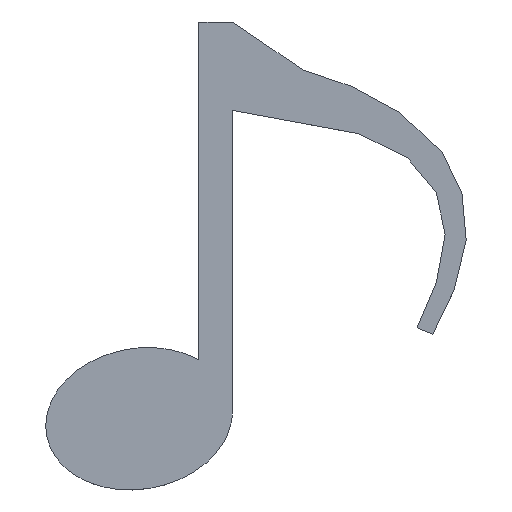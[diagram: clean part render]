
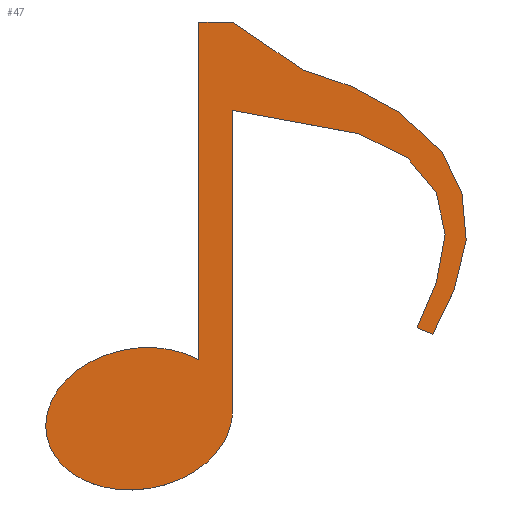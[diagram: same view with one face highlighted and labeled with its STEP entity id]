
A CAD part, top view. The second image highlights one B-rep face of the part: STEP entity #47.
In plain terms, the highlighted planar face has unit normal (0, 0, 1).
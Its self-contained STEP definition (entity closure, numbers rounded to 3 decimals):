
#47=ADVANCED_FACE('',(#70),#71,.T.);
#70=FACE_OUTER_BOUND('',#113,.T.);
#71=PLANE('',#114);
#113=EDGE_LOOP('',(#172,#173,#174,#175,#176,#177,#178,#179,#180,#181,#182,#183,#184,#185,#186,#187,#188,#189,#190));
#114=AXIS2_PLACEMENT_3D('',#191,#192,#193);
#172=ORIENTED_EDGE('',*,*,#346,.F.);
#173=ORIENTED_EDGE('',*,*,#347,.T.);
#174=ORIENTED_EDGE('',*,*,#344,.T.);
#175=ORIENTED_EDGE('',*,*,#348,.T.);
#176=ORIENTED_EDGE('',*,*,#349,.T.);
#177=ORIENTED_EDGE('',*,*,#350,.T.);
#178=ORIENTED_EDGE('',*,*,#351,.T.);
#179=ORIENTED_EDGE('',*,*,#352,.T.);
#180=ORIENTED_EDGE('',*,*,#353,.T.);
#181=ORIENTED_EDGE('',*,*,#354,.T.);
#182=ORIENTED_EDGE('',*,*,#355,.T.);
#183=ORIENTED_EDGE('',*,*,#356,.T.);
#184=ORIENTED_EDGE('',*,*,#357,.T.);
#185=ORIENTED_EDGE('',*,*,#358,.T.);
#186=ORIENTED_EDGE('',*,*,#359,.T.);
#187=ORIENTED_EDGE('',*,*,#360,.T.);
#188=ORIENTED_EDGE('',*,*,#361,.T.);
#189=ORIENTED_EDGE('',*,*,#362,.T.);
#190=ORIENTED_EDGE('',*,*,#363,.T.);
#191=CARTESIAN_POINT('',(0.0,0.0,3.0));
#192=DIRECTION('',(0.0,-0.0,1.0));
#193=DIRECTION('',(1.0,0.0,-0.0));
#344=EDGE_CURVE('',#404,#402,#405,.T.);
#346=EDGE_CURVE('',#407,#408,#409,.T.);
#347=EDGE_CURVE('',#407,#404,#410,.T.);
#348=EDGE_CURVE('',#402,#411,#412,.T.);
#349=EDGE_CURVE('',#411,#413,#414,.T.);
#350=EDGE_CURVE('',#413,#415,#416,.T.);
#351=EDGE_CURVE('',#415,#417,#418,.T.);
#352=EDGE_CURVE('',#417,#419,#420,.T.);
#353=EDGE_CURVE('',#419,#421,#422,.T.);
#354=EDGE_CURVE('',#421,#423,#424,.T.);
#355=EDGE_CURVE('',#423,#425,#426,.T.);
#356=EDGE_CURVE('',#425,#427,#428,.T.);
#357=EDGE_CURVE('',#427,#429,#430,.T.);
#358=EDGE_CURVE('',#429,#431,#432,.T.);
#359=EDGE_CURVE('',#431,#433,#434,.T.);
#360=EDGE_CURVE('',#433,#435,#436,.T.);
#361=EDGE_CURVE('',#435,#437,#438,.T.);
#362=EDGE_CURVE('',#437,#439,#440,.T.);
#363=EDGE_CURVE('',#439,#408,#441,.T.);
#402=VERTEX_POINT('',#497);
#404=VERTEX_POINT('',#500);
#405=ELLIPSE('',#501,28.0,21.0);
#407=VERTEX_POINT('',#504);
#408=VERTEX_POINT('',#505);
#409=LINE('',#506,#507);
#410=LINE('',#508,#509);
#411=VERTEX_POINT('',#510);
#412=LINE('',#511,#512);
#413=VERTEX_POINT('',#513);
#414=LINE('',#514,#515);
#415=VERTEX_POINT('',#516);
#416=LINE('',#517,#518);
#417=VERTEX_POINT('',#519);
#418=LINE('',#520,#521);
#419=VERTEX_POINT('',#522);
#420=LINE('',#523,#524);
#421=VERTEX_POINT('',#525);
#422=LINE('',#526,#527);
#423=VERTEX_POINT('',#528);
#424=LINE('',#529,#530);
#425=VERTEX_POINT('',#531);
#426=LINE('',#532,#533);
#427=VERTEX_POINT('',#534);
#428=LINE('',#535,#536);
#429=VERTEX_POINT('',#537);
#430=LINE('',#538,#539);
#431=VERTEX_POINT('',#540);
#432=LINE('',#541,#542);
#433=VERTEX_POINT('',#543);
#434=LINE('',#544,#545);
#435=VERTEX_POINT('',#546);
#436=LINE('',#547,#548);
#437=VERTEX_POINT('',#549);
#438=LINE('',#550,#551);
#439=VERTEX_POINT('',#552);
#440=LINE('',#553,#554);
#441=LINE('',#555,#556);
#497=CARTESIAN_POINT('',(5.007,-71.715,3.0));
#500=CARTESIAN_POINT('',(-4.993,-56.239,3.0));
#501=AXIS2_PLACEMENT_3D('',#648,#649,#650);
#504=CARTESIAN_POINT('',(-4.993,44.437,3.0));
#505=CARTESIAN_POINT('',(5.007,44.437,3.0));
#506=CARTESIAN_POINT('',(-4.993,44.437,3.0));
#507=VECTOR('',#652,1.0);
#508=CARTESIAN_POINT('',(-4.993,49.998,3.0));
#509=VECTOR('',#653,1.0);
#510=CARTESIAN_POINT('',(5.007,18.09,3.0));
#511=CARTESIAN_POINT('',(5.007,-71.715,3.0));
#512=VECTOR('',#654,1.0);
#513=CARTESIAN_POINT('',(42.664,11.145,3.0));
#514=CARTESIAN_POINT('',(5.007,18.09,3.0));
#515=VECTOR('',#655,1.0);
#516=CARTESIAN_POINT('',(57.191,3.918,3.0));
#517=CARTESIAN_POINT('',(42.664,11.145,3.0));
#518=VECTOR('',#656,1.0);
#519=CARTESIAN_POINT('',(65.801,-6.397,3.0));
#520=CARTESIAN_POINT('',(57.191,3.918,3.0));
#521=VECTOR('',#657,1.0);
#522=CARTESIAN_POINT('',(68.413,-18.889,3.0));
#523=CARTESIAN_POINT('',(65.801,-6.397,3.0));
#524=VECTOR('',#658,1.0);
#525=CARTESIAN_POINT('',(65.797,-33.303,3.0));
#526=CARTESIAN_POINT('',(68.413,-18.889,3.0));
#527=VECTOR('',#659,1.0);
#528=CARTESIAN_POINT('',(60.056,-46.743,3.0));
#529=CARTESIAN_POINT('',(65.797,-33.303,3.0));
#530=VECTOR('',#660,1.0);
#531=CARTESIAN_POINT('',(64.683,-48.639,3.0));
#532=CARTESIAN_POINT('',(60.056,-46.743,3.0));
#533=VECTOR('',#661,1.0);
#534=CARTESIAN_POINT('',(71.076,-35.432,3.0));
#535=CARTESIAN_POINT('',(64.683,-48.639,3.0));
#536=VECTOR('',#662,1.0);
#537=CARTESIAN_POINT('',(74.7,-20.811,3.0));
#538=CARTESIAN_POINT('',(71.076,-35.432,3.0));
#539=VECTOR('',#663,1.0);
#540=CARTESIAN_POINT('',(73.444,-6.823,3.0));
#541=CARTESIAN_POINT('',(74.7,-20.811,3.0));
#542=VECTOR('',#664,1.0);
#543=CARTESIAN_POINT('',(67.576,5.492,3.0));
#544=CARTESIAN_POINT('',(73.444,-6.823,3.0));
#545=VECTOR('',#665,1.0);
#546=CARTESIAN_POINT('',(54.888,17.45,3.0));
#547=CARTESIAN_POINT('',(67.576,5.492,3.0));
#548=VECTOR('',#666,1.0);
#549=CARTESIAN_POINT('',(40.394,25.299,3.0));
#550=CARTESIAN_POINT('',(54.888,17.45,3.0));
#551=VECTOR('',#667,1.0);
#552=CARTESIAN_POINT('',(26.153,30.079,3.0));
#553=CARTESIAN_POINT('',(40.394,25.299,3.0));
#554=VECTOR('',#668,1.0);
#555=CARTESIAN_POINT('',(26.153,30.079,3.0));
#556=VECTOR('',#669,1.0);
#648=CARTESIAN_POINT('',(-22.807,-73.824,3.0));
#649=DIRECTION('',(0.0,-0.0,1.0));
#650=DIRECTION('',(0.985,0.174,0.0));
#652=DIRECTION('',(1.0,0.0,0.0));
#653=DIRECTION('',(0.,-1.0,0.0));
#654=DIRECTION('',(0.,1.0,0.0));
#655=DIRECTION('',(0.983,-0.181,0.0));
#656=DIRECTION('',(0.895,-0.445,0.0));
#657=DIRECTION('',(0.641,-0.768,0.0));
#658=DIRECTION('',(0.205,-0.979,0.0));
#659=DIRECTION('',(-0.179,-0.984,0.0));
#660=DIRECTION('',(-0.393,-0.92,0.0));
#661=DIRECTION('',(0.925,-0.379,0.0));
#662=DIRECTION('',(0.436,0.9,0.0));
#663=DIRECTION('',(0.241,0.971,0.0));
#664=DIRECTION('',(-0.089,0.996,0.0));
#665=DIRECTION('',(-0.43,0.903,0.0));
#666=DIRECTION('',(-0.728,0.686,0.0));
#667=DIRECTION('',(-0.879,0.476,0.0));
#668=DIRECTION('',(-0.948,0.318,0.0));
#669=DIRECTION('',(-0.827,0.562,0.0));
